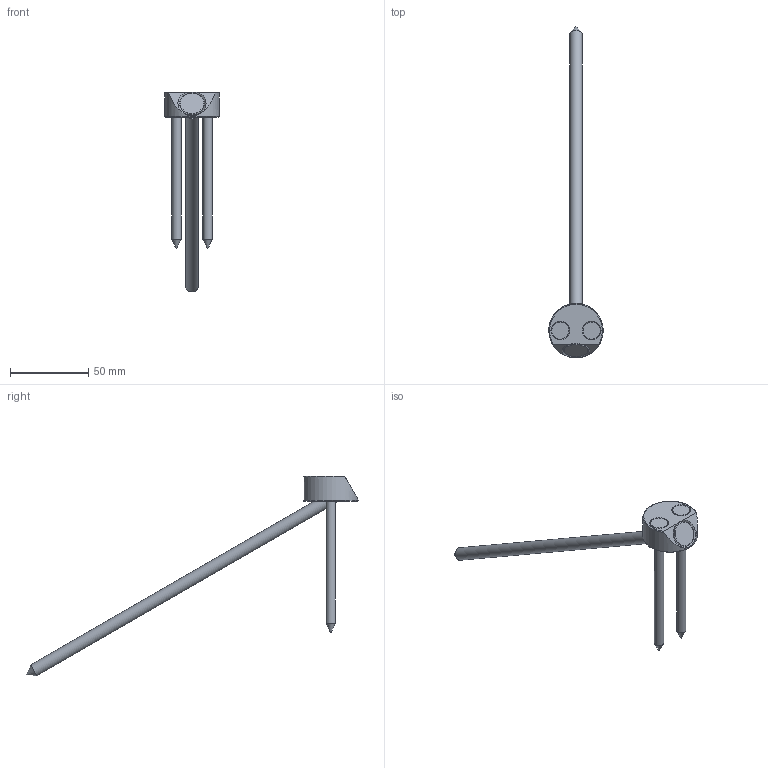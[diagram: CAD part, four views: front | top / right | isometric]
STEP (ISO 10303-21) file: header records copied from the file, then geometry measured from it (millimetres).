
FILE_DESCRIPTION(/* description */ ('Unknown'),/* implementation_level */ '2;1');
FILE_NAME(/* name */ 'T-Joint_D35_W30_2xSK6x100_1xSK8x240',/* time_stamp */ '2020-07-13T10:08:33+02:00',/* author */ ('Unknown'),/* organization */ ('Unknown'),/* preprocessor_version */ 'ST-DEVELOPER v16.7',/* originating_system */ 'DEX',/* authorisation */ $);
FILE_SCHEMA (('AUTOMOTIVE_DESIGN {1 0 10303 214 3 1 1}'));
Length unit declared in the file: millimetre
Products named in the file (4): T-Joint_D35_W30_2xSK6x100_1xSK8x240; T-Joint_D35_W30; SK Schraube 6x100_ohne_Gewinde; SK Knapp Schraube 8x240_ohne_Gewinde_22042020
Assembly tree (4 placements, depth 2):
  T-Joint_D35_W30_2xSK6x100_1xSK8x240
    T-Joint_D35_W30
    SK Schraube 6x100_ohne_Gewinde  x2
    SK Knapp Schraube 8x240_ohne_Gewinde_22042020
Bounding box: 34.79 x 212.36 x 127.77 mm (x, y, z)
Volume: 28429.8 mm3; surface area: 14463.4 mm2
Topology: 4 solids, 4 shells, 33 faces, 66 edges, 40 vertices
Faces by surface type: cylinder 11, cone 10, plane 9, torus 3
Full cylindrical faces by diameter (mm): 6 x3, 6.2 x2, 8 x2, 11 x2, 12.5 x1, 34.8 x1
Entity records: 702 total; most frequent: DIRECTION 120, CARTESIAN_POINT 106, ORIENTED_EDGE 64, AXIS2_PLACEMENT_3D 59, FACE_BOUND 52, EDGE_LOOP 51, EDGE_CURVE 32, VERTEX_POINT 30
